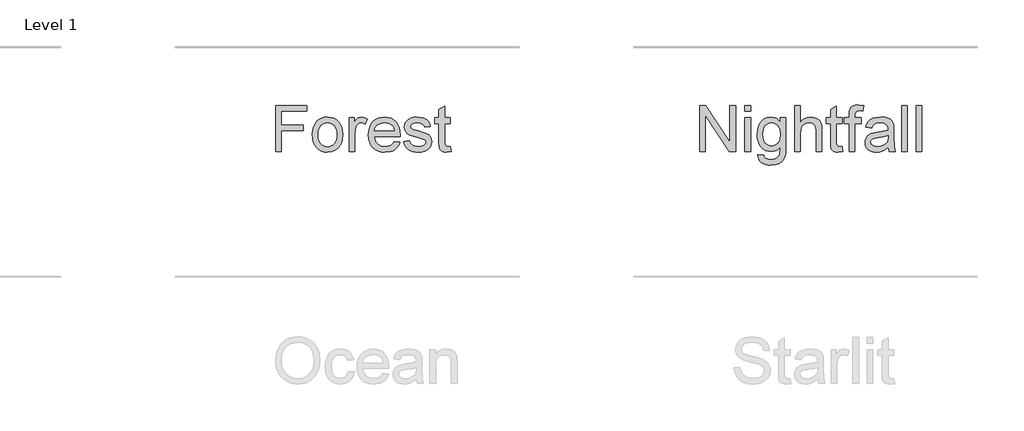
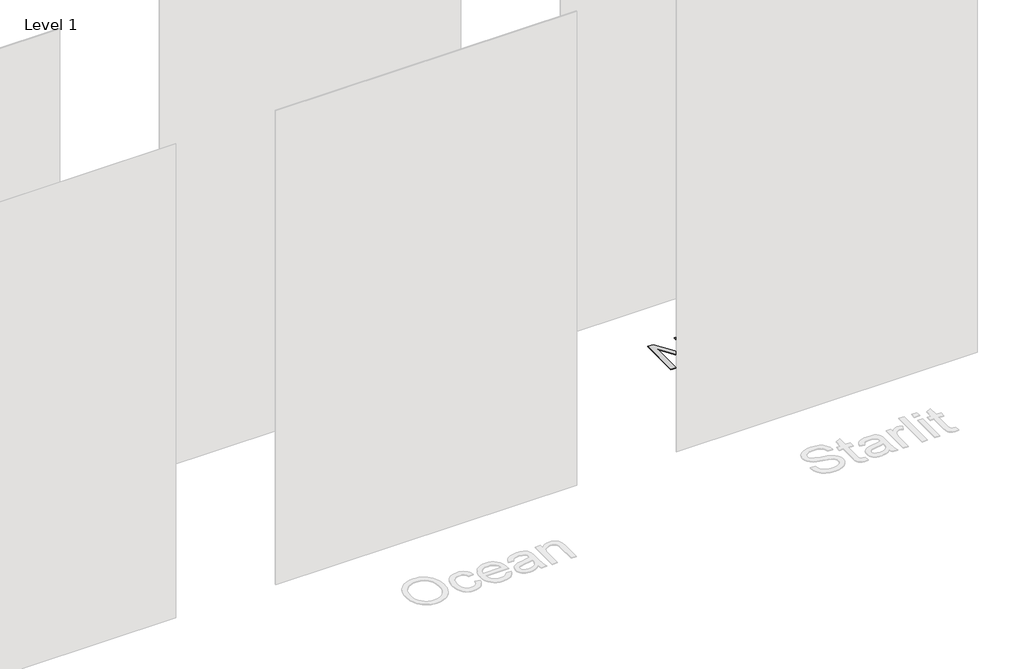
# One storey, part 7 of 7: 2 proxies.
"""IFC4 building model written with IfcOpenShell, lengths in millimetres."""

from ifc_helpers import new_model, si_unit, origin, origin_with_axes, place, context, project, spatial, polyline, outline, extrude, element, save

model = new_model("IFC4")

# Units and contexts
model_context = context("Model", 3, world=origin())
ifc_project = project(units=[si_unit("LENGTHUNIT", "METRE", prefix="MILLI")], contexts=[model_context])

# Site, building, storey
site = spatial("IfcSite", under=ifc_project)
building = spatial("IfcBuilding", under=site)
storey = spatial("IfcBuildingStorey", under=building, Name="Level 1", Elevation=0.0)

# Proxies
placement = place(None, origin())
element("IfcBuildingElementProxy", 1, Name="400mm Arial", ObjectType="400mm Arial", at=placement, inside=storey, context=model_context, shape_type="SweptSolid", body=[
    extrude(outline(polyline([(3542.0370354, 9789.6258822), (3542.0370354, 10191.4511228), (3812.0133689, 10191.4511228), (3812.0133689, 10141.2229677), (3592.2651905, 10141.2229677), (3592.2651905, 10021.9310994), (3780.620772, 10021.9310994), (3780.620772, 9971.7029443), (3592.2651905, 9971.7029443), (3592.2651905, 9789.6258822), (3542.0370354, 9789.6258822)])), origin_with_axes(), (0.0, 0.0, 1.0), 5.0),
    extrude(outline(polyline([(3862.241524, 9937.1710877), (3864.9577194, 9975.3878957), (3873.1063056, 10008.3194656), (3886.6872826, 10035.9657975), (3905.7006504, 10058.3268915), (3924.8427768, 10072.619107), (3945.9714661, 10082.8278324), (3969.0867181, 10088.9530676), (3994.1885329, 10090.9948127), (4021.8992442, 10088.5085435), (4046.9550738, 10081.049736), (4069.3560216, 10068.6183903), (4089.1020877, 10051.2145062), (4105.2183848, 10029.4266951), (4116.7300255, 10003.843568), (4123.63701, 9974.465125), (4125.9393381, 9941.2913661), (4121.8681107, 9890.5481762), (4109.6544285, 9851.9205667), (4089.6539107, 9822.9927792), (4062.2221766, 9801.3490551), (4029.6400945, 9787.8477859), (3994.1885329, 9783.3473628), (3966.0731514, 9785.8244349), (3940.78433, 9793.2556512), (3918.3220685, 9805.6410117), (3898.686367, 9822.9805164), (3882.7417482, 9844.9798597), (3871.3527347, 9871.3447361), (3864.5193267, 9902.0751454), (3862.241524, 9937.1710877)]), holes=[polyline([(3912.4696791, 9937.2691896), (3913.9228129, 9912.9062045), (3918.2822146, 9891.8112377), (3925.547884, 9873.9842894), (3935.7198212, 9859.4253594), (3948.0929189, 9848.1160538), (3961.9620702, 9840.0379783), (3977.3272748, 9835.191133), (3994.1885329, 9833.5755179), (4010.9639519, 9835.20033), (4026.2678429, 9840.0747665), (4040.1002059, 9848.1988272), (4052.461041, 9859.5725122), (4062.6329781, 9874.2755293), (4069.8986475, 9892.3875862), (4074.2580492, 9913.9086829), (4075.7111831, 9938.8388194), (4074.2488521, 9962.4292524), (4069.8618593, 9982.9723961), (4062.5502047, 10000.4682507), (4052.3138882, 10014.916816), (4039.9070679, 10026.2261217), (4026.0839019, 10034.3041972), (4010.8443903, 10039.1510425), (3994.1885329, 10040.7666576), (3977.3272748, 10039.1571738), (3961.9620702, 10034.3287227), (3948.0929189, 10026.281304), (3935.7198212, 10015.0149179), (3925.547884, 10000.4989075), (3918.2822146, 9982.702616), (3913.9228129, 9961.6260434), (3912.4696791, 9937.2691896)])]), origin_with_axes(), (0.0, 0.0, 1.0), 5.0),
    extrude(outline(polyline([(4182.4460126, 9789.6258822), (4182.4460126, 10084.7162933), (4226.3956483, 10084.7162933), (4226.3956483, 10041.0609632), (4242.631507, 10066.3712444), (4257.5920415, 10081.282728), (4272.6016269, 10088.5667915), (4288.9846384, 10090.9948127), (4314.0006141, 10087.119789), (4339.4089972, 10075.4947179), (4322.6335782, 10030.4659617), (4304.9752425, 10038.1914836), (4287.3169067, 10040.7666576), (4272.319584, 10038.2895855), (4258.9164167, 10030.8583692), (4248.0884233, 10019.0370944), (4240.8166225, 10003.3898469), (4234.7097814, 9975.3327134), (4232.6741677, 9944.7249314), (4232.6741677, 9789.6258822), (4182.4460126, 9789.6258822)])), origin_with_axes(), (0.0, 0.0, 1.0), 5.0),
    extrude(outline(polyline([(4577.4041226, 9877.5251536), (4626.651259, 9871.2466342), (4619.1004811, 9851.5220279), (4608.9070841, 9834.1396036), (4596.0710682, 9819.0993614), (4580.5924332, 9806.4013012), (4562.6305948, 9796.3152031), (4542.3449685, 9789.1108474), (4494.802352, 9783.3473628), (4463.6366156, 9785.833632), (4435.8676563, 9793.2924394), (4411.4954742, 9805.7237852), (4390.5200691, 9823.1276692), (4373.6526796, 9845.0197136), (4361.6045442, 9870.9155404), (4354.375663, 9900.8151496), (4351.966036, 9934.7185411), (4354.4001885, 9969.7715639), (4361.7026461, 10000.6675201), (4373.8734088, 10027.4064098), (4390.9124765, 10049.9882329), (4411.8326993, 10067.9286116), (4435.6469271, 10080.7431677), (4462.35516, 10088.4319014), (4491.9573979, 10090.9948127), (4520.6062082, 10088.4380328), (4546.5142978, 10080.7676932), (4569.6816664, 10067.9837939), (4590.1083142, 10050.0863348), (4606.7825656, 10027.5535626), (4618.6927452, 10000.8637238), (4625.838853, 9970.0168185), (4628.2208889, 9935.0128467), (4627.9265833, 9921.4747893), (4402.194191, 9921.4747893), (4405.1035245, 9901.4313519), (4410.8884689, 9883.8772494), (4419.5490242, 9868.8124817), (4431.0851904, 9856.2370488), (4444.8593054, 9846.322629), (4460.2337072, 9839.2409006), (4495.7833706, 9833.5755179), (4522.5161289, 9836.1997428), (4545.030507, 9844.0724175), (4563.3265049, 9857.6840513), (4577.4041226, 9877.5251536)]), holes=[polyline([(4402.194191, 9971.7029443), (4577.9927338, 9971.7029443), (4571.1991796, 9998.2394989), (4557.8818514, 10017.2222099), (4544.1843785, 10027.5229058), (4528.5984446, 10034.8805457), (4511.1240498, 10039.2951296), (4491.7611941, 10040.7666576), (4457.9037879, 10036.0700308), (4429.907968, 10021.9801504), (4410.4470105, 10000.0175952), (4402.194191, 9971.7029443)])]), origin_with_axes(), (0.0, 0.0, 1.0), 5.0),
    extrude(outline(polyline([(4659.6134858, 9877.5251536), (4709.8416409, 9883.803673), (4717.7633665, 9862.3193645), (4733.091783, 9846.5249641), (4755.9249921, 9836.8128795), (4786.3610959, 9833.5755179), (4816.4293176, 9836.5430993), (4837.5702696, 9845.4458436), (4850.0782574, 9858.3462389), (4854.2475867, 9873.3067734), (4850.053732, 9886.1090668), (4837.4721677, 9895.8702024), (4785.7724847, 9910.1930748), (4710.1359465, 9934.767592), (4690.99382, 9947.1161643), (4677.1246688, 9963.4623877), (4668.7001711, 9982.7639297), (4665.8920052, 10003.9784581), (4668.1483481, 10023.4394156), (4674.9173768, 10041.4043197), (4685.5859547, 10057.1619318), (4699.540945, 10070.0010135), (4731.4731022, 10084.8634461), (4752.3565368, 10089.461971), (4774.6869739, 10090.9948127), (4807.3794205, 10088.5300033), (4835.804436, 10081.1355752), (4858.6621707, 10069.5350296), (4874.6527747, 10054.4518678), (4885.2477762, 10034.7701811), (4891.918703, 10009.3740607), (4841.690548, 10003.0955413), (4835.3507149, 10018.9022043), (4822.8059389, 10030.8093182), (4803.9335925, 10038.2773227), (4778.6110485, 10040.7666576), (4749.7691001, 10038.3876873), (4730.5411345, 10031.2507766), (4719.7254038, 10020.9500808), (4716.1201603, 10009.0797551), (4722.1043741, 9994.4625771), (4740.8418303, 9983.3770663), (4784.104753, 9972.683963), (4857.8283048, 9949.0414134), (4877.3015251, 9937.7351735), (4892.0658558, 9922.2596042), (4901.3732703, 9902.5656547), (4904.4757418, 9878.6042741), (4900.83371, 9853.8335531), (4889.9076148, 9830.5343601), (4872.114389, 9810.5338423), (4847.8709655, 9795.6591469), (4818.5875587, 9786.4253088), (4785.6743828, 9783.3473628), (4758.6411875, 9784.8311535), (4735.0292948, 9789.2825257), (4714.8387046, 9796.7014792), (4698.069417, 9807.0880142), (4684.3719441, 9820.3930797), (4673.3967979, 9836.5676248), (4665.1439785, 9855.6116494), (4659.6134858, 9877.5251536)])), origin_with_axes(), (0.0, 0.0, 1.0), 5.0),
    extrude(outline(polyline([(5067.7172458, 9831.5153787), (5073.9957652, 9788.1543542), (5036.4227507, 9783.3473628), (5012.3142173, 9785.4320275), (4994.3370505, 9791.6860214), (4981.6328589, 9801.3245297), (4973.3432513, 9813.5627374), (4968.7815146, 9834.581062), (4967.2609356, 9870.5599211), (4967.2609356, 10034.4881382), (4929.5898193, 10034.4881382), (4929.5898193, 10084.7162933), (4967.2609356, 10084.7162933), (4967.2609356, 10156.4287569), (5017.4890907, 10185.9574183), (5017.4890907, 10084.7162933), (5067.7172458, 10084.7162933), (5067.7172458, 10034.4881382), (5017.4890907, 10034.4881382), (5017.4890907, 9872.0314491), (5020.1378411, 9846.1325567), (5028.7217543, 9836.9600322), (5045.8405298, 9833.5755179), (5067.7172458, 9831.5153787)])), origin_with_axes(), (0.0, 0.0, 1.0), 5.0),
])
element("IfcBuildingElementProxy", 2, Name="400mm Arial", ObjectType="400mm Arial", at=placement, inside=storey, context=model_context, shape_type="SweptSolid", body=[
    extrude(outline(polyline([(7242.0370354, 9789.6258822), (7242.0370354, 10191.4511228), (7295.7968576, 10191.4511228), (7505.7348495, 9873.1105696), (7505.7348495, 10191.4511228), (7555.9630046, 10191.4511228), (7555.9630046, 9789.6258822), (7502.2031824, 9789.6258822), (7292.2651905, 10108.0645372), (7292.2651905, 9789.6258822), (7242.0370354, 9789.6258822)])), origin_with_axes(), (0.0, 0.0, 1.0), 5.0),
    extrude(outline(polyline([(7637.5837566, 9789.6258822), (7637.5837566, 10084.7162933), (7687.8119117, 10084.7162933), (7687.8119117, 9789.6258822), (7637.5837566, 9789.6258822)])), origin_with_axes(), (0.0, 0.0, 1.0), 5.0),
    extrude(outline(polyline([(7637.5837566, 10141.2229677), (7637.5837566, 10191.4511228), (7687.8119117, 10191.4511228), (7687.8119117, 10141.2229677), (7637.5837566, 10141.2229677)])), origin_with_axes(), (0.0, 0.0, 1.0), 5.0),
    extrude(outline(polyline([(7750.5971055, 9764.5118047), (7800.8252606, 9758.2332853), (7806.368016, 9742.5369868), (7817.1101703, 9731.7457816), (7838.2265968, 9723.3580721), (7865.8667973, 9720.562169), (7895.3464079, 9723.7259541), (7917.2721748, 9733.2173096), (7932.4779639, 9748.4230987), (7941.7976412, 9768.7301849), (7945.2312064, 9827.2969985), (7928.5171011, 9810.8158851), (7909.865484, 9799.0436613), (7889.276355, 9791.980327), (7866.7497141, 9789.6258822), (7839.2106811, 9792.3666031), (7814.9641919, 9800.5887657), (7794.0102466, 9814.29237), (7776.3488452, 9833.477416), (7762.3356069, 9856.4945662), (7752.3261509, 9881.6944829), (7746.3204773, 9909.077166), (7744.3185861, 9938.6426157), (7747.911567, 9979.1954743), (7758.6905094, 10016.4864459), (7776.2752688, 10048.0875093), (7800.2857003, 10071.5706433), (7829.900201, 10086.1387703), (7864.2971675, 10090.9948127), (7887.7864329, 10088.2479604), (7909.1051945, 10080.0074037), (7928.2534524, 10066.2731426), (7945.2312064, 10047.045177), (7945.2312064, 10084.7162933), (7995.4593615, 10084.7162933), (7995.4593615, 9829.9457489), (7992.0257962, 9771.1214178), (7981.7251004, 9732.3834438), (7963.9809255, 9706.6930178), (7938.2169231, 9687.011331), (7904.9971789, 9674.5033432), (7864.8857787, 9670.3340139), (7840.2775389, 9671.8024762), (7818.1525026, 9676.2078631), (7798.5106697, 9683.5501746), (7781.3520403, 9693.8294107), (7767.4920862, 9707.0578341), (7757.746279, 9723.2477075), (7752.1146188, 9742.3990311), (7750.5971055, 9764.5118047)]), holes=[polyline([(7794.5467412, 9942.076181), (7799.9055556, 9896.0050925), (7806.6040736, 9878.3682165), (7815.9819988, 9864.3304527), (7827.383275, 9853.6220209), (7840.1518459, 9845.9731411), (7854.2877115, 9841.3838132), (7869.790872, 9839.8540373), (7885.1407482, 9841.3746162), (7899.2091688, 9845.9363529), (7911.9961339, 9853.5392475), (7923.5016433, 9864.1832999), (7933.0083271, 9878.0831079), (7939.7988156, 9895.4532695), (7945.2312064, 9940.604653), (7939.6394001, 9984.1496185), (7932.6496422, 10001.3511675), (7922.8639811, 10015.5054272), (7911.1101514, 10026.5572155), (7898.2158875, 10034.45135), (7884.1811893, 10039.1878307), (7869.006057, 10040.7666576), (7854.0853765, 10039.2123561), (7840.3235241, 10034.5494519), (7816.2763044, 10015.8978347), (7806.7696205, 10001.9581728), (7799.979132, 9985.0080098), (7794.5467412, 9942.076181)])]), origin_with_axes(), (0.0, 0.0, 1.0), 5.0),
    extrude(outline(polyline([(8070.8015941, 9789.6258822), (8070.8015941, 10191.4511228), (8121.0297492, 10191.4511228), (8121.0297492, 10043.7097135), (8139.4790313, 10064.3969444), (8160.196919, 10079.1735379), (8183.1834123, 10088.039494), (8208.4385113, 10090.9948127), (8238.7765131, 10087.7697138), (8264.8470838, 10078.0944174), (8285.3748992, 10062.7292127), (8299.0846349, 10042.4343893), (8306.8101568, 10014.5489341), (8309.3853307, 9976.4118339), (8309.3853307, 9789.6258822), (8259.1571757, 9789.6258822), (8259.1571757, 9971.212435), (8255.1595246, 10002.6540829), (8243.1665716, 10024.1874423), (8223.8405041, 10036.6218538), (8197.8435098, 10040.7666576), (8176.6167187, 10037.9707544), (8156.6897773, 10029.5830449), (8140.1841384, 10016.4128695), (8129.221255, 9999.2695685), (8123.0776256, 9976.4854103), (8121.0297492, 9946.3926631), (8121.0297492, 9789.6258822), (8070.8015941, 9789.6258822)])), origin_with_axes(), (0.0, 0.0, 1.0), 5.0),
    extrude(outline(polyline([(8485.1838735, 9831.5153787), (8491.4623929, 9788.1543542), (8453.8893784, 9783.3473628), (8429.780845, 9785.4320275), (8411.8036782, 9791.6860214), (8399.0994866, 9801.3245297), (8390.809879, 9813.5627374), (8386.2481423, 9834.581062), (8384.7275633, 9870.5599211), (8384.7275633, 10034.4881382), (8347.056447, 10034.4881382), (8347.056447, 10084.7162933), (8384.7275633, 10084.7162933), (8384.7275633, 10156.4287569), (8434.9557184, 10185.9574183), (8434.9557184, 10084.7162933), (8485.1838735, 10084.7162933), (8485.1838735, 10034.4881382), (8434.9557184, 10034.4881382), (8434.9557184, 9872.0314491), (8437.6044688, 9846.1325567), (8446.188382, 9836.9600322), (8463.3071575, 9833.5755179), (8485.1838735, 9831.5153787)])), origin_with_axes(), (0.0, 0.0, 1.0), 5.0),
    extrude(outline(polyline([(8547.9690673, 9789.6258822), (8547.9690673, 10034.4881382), (8504.0194316, 10034.4881382), (8504.0194316, 10084.7162933), (8547.9690673, 10084.7162933), (8547.9690673, 10114.4411585), (8549.2934425, 10139.0402012), (8553.2665681, 10156.330655), (8563.3710602, 10173.0324976), (8578.9692568, 10186.2517239), (8600.7969218, 10194.8601626), (8629.5898193, 10197.7296422), (8675.4033905, 10192.2359377), (8668.0457506, 10145.1470423), (8639.1057003, 10147.5014871), (8620.0126247, 10145.4168225), (8607.4678487, 10139.1628286), (8600.514879, 10127.2189264), (8598.1972224, 10108.0645372), (8598.1972224, 10084.7162933), (8654.7038969, 10084.7162933), (8654.7038969, 10034.4881382), (8598.1972224, 10034.4881382), (8598.1972224, 9789.6258822), (8547.9690673, 9789.6258822)])), origin_with_axes(), (0.0, 0.0, 1.0), 5.0),
    extrude(outline(polyline([(8887.0091141, 9827.2969985), (8863.0109453, 9806.7201322), (8838.3015379, 9793.2556512), (8812.3168063, 9785.8244349), (8784.4926648, 9783.3473628), (8762.1285051, 9784.8372849), (8742.5173291, 9789.3070511), (8725.6591367, 9796.7566615), (8711.5539279, 9807.1861161), (8700.4163005, 9819.9332272), (8692.4608523, 9834.3358074), (8687.6875834, 9850.3938564), (8686.0964938, 9868.1073745), (8688.4999895, 9888.9294954), (8695.7104766, 9907.83863), (8706.8327756, 9924.0254378), (8720.9717069, 9936.6805784), (8737.5877104, 9946.2455103), (8756.1412257, 9953.1616918), (8799.600352, 9960.7155354), (8850.9566786, 9968.6617865), (8886.7148085, 9977.9814637), (8887.0091141, 9989.1650764), (8883.5510233, 10011.5813526), (8873.1767511, 10026.2475815), (8849.9756599, 10037.1368886), (8817.6510953, 10040.7666576), (8787.7300263, 10038.3508991), (8766.834329, 10031.1036238), (8752.5850331, 10017.7004565), (8742.6031683, 9996.8170219), (8692.3750132, 10003.0955413), (8701.0938165, 10030.5640636), (8714.1045764, 10052.146474), (8732.6213034, 10068.6521128), (8757.8580083, 10080.8903205), (8788.7233077, 10088.4686896), (8824.1258184, 10090.9948127), (8858.0813265, 10088.7629952), (8884.9980259, 10082.0675429), (8905.2928493, 10071.999839), (8919.3827297, 10059.6512667), (8928.7269323, 10044.3841639), (8934.7847225, 10025.5608684), (8937.2372692, 9981.6112328), (8937.2372692, 9919.1203445), (8939.7879177, 9831.8587352), (8949.7943079, 9789.6258822), (8899.5661529, 9789.6258822), (8891.5217999, 9807.0880142), (8887.0091141, 9827.2969985)]), holes=[polyline([(8887.0091141, 9927.7533087), (8853.2620724, 9919.3901246), (8805.9769733, 9912.3513158), (8762.7631016, 9904.208861), (8751.5181753, 9898.6415801), (8743.1917794, 9890.9651091), (8738.0414315, 9881.7680593), (8736.3246489, 9871.6390417), (8740.0647825, 9856.7030327), (8751.2851833, 9844.464825), (8769.7405968, 9836.2978447), (8795.1857681, 9833.5755179), (8822.1637811, 9836.5798875), (8846.0025344, 9845.5929964), (8865.3286018, 9858.8735364), (8878.7685574, 9874.6801995), (8884.7282457, 9890.9651091), (8886.7148085, 9913.5285382), (8887.0091141, 9927.7533087)])]), origin_with_axes(), (0.0, 0.0, 1.0), 5.0),
    extrude(outline(polyline([(9006.3009824, 9789.6258822), (9006.3009824, 10191.4511228), (9056.5291375, 10191.4511228), (9056.5291375, 9789.6258822), (9006.3009824, 9789.6258822)])), origin_with_axes(), (0.0, 0.0, 1.0), 5.0),
    extrude(outline(polyline([(9131.8713701, 9789.6258822), (9131.8713701, 10191.4511228), (9182.0995252, 10191.4511228), (9182.0995252, 9789.6258822), (9131.8713701, 9789.6258822)])), origin_with_axes(), (0.0, 0.0, 1.0), 5.0),
])

save(model, "model.ifc")
